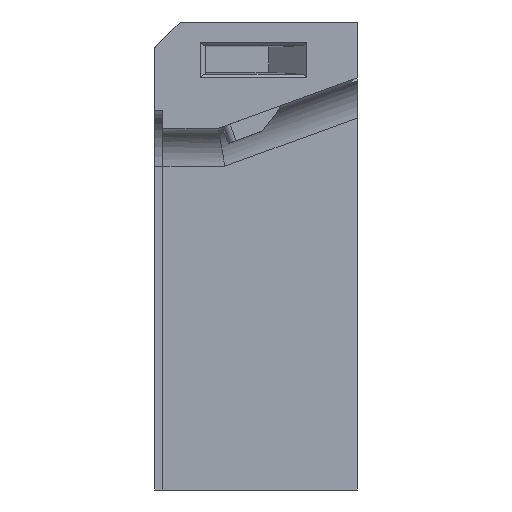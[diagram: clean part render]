
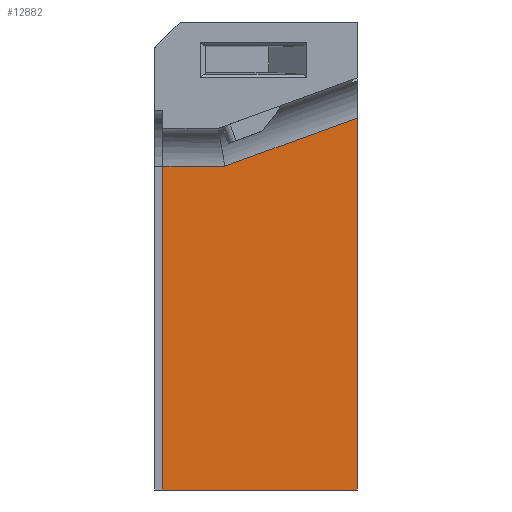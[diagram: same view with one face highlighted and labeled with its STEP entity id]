
A CAD part, left-side view. The second image highlights one B-rep face of the part: STEP entity #12882.
In plain terms, the highlighted planar face has unit normal (-1, 0, 0).
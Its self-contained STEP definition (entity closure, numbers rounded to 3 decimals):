
#70 = VERTEX_POINT ( 'NONE', #3200 ) ;
#114 = LINE ( 'NONE', #9999, #11064 ) ;
#286 = LINE ( 'NONE', #4239, #10628 ) ;
#695 = ORIENTED_EDGE ( 'NONE', *, *, #7512, .T. ) ;
#859 = DIRECTION ( 'NONE',  ( 0., 0., 1. ) ) ;
#1569 = VERTEX_POINT ( 'NONE', #6460 ) ;
#2038 = CARTESIAN_POINT ( 'NONE',  ( 163.336, 76.8, -144.027 ) ) ;
#2141 = ORIENTED_EDGE ( 'NONE', *, *, #9783, .T. ) ;
#3200 = CARTESIAN_POINT ( 'NONE',  ( 163.336, 76.8, -16.077 ) ) ;
#3684 = EDGE_LOOP ( 'NONE', ( #7714, #16554, #695, #2141, #5654 ) ) ;
#3722 = VECTOR ( 'NONE', #16094, 1000. ) ;
#3858 = VECTOR ( 'NONE', #4910, 1000. ) ;
#4147 = LINE ( 'NONE', #6898, #10643 ) ;
#4239 = CARTESIAN_POINT ( 'NONE',  ( 163.336, 76.8, 25.923 ) ) ;
#4392 = VERTEX_POINT ( 'NONE', #12173 ) ;
#4821 = DIRECTION ( 'NONE',  ( 0., 0., 1. ) ) ;
#4910 = DIRECTION ( 'NONE',  ( 0., -1., 0. ) ) ;
#5654 = ORIENTED_EDGE ( 'NONE', *, *, #8840, .T. ) ;
#6135 = DIRECTION ( 'NONE',  ( -1., 0., 0. ) ) ;
#6453 = CARTESIAN_POINT ( 'NONE',  ( 163.336, 80., -144.027 ) ) ;
#6460 = CARTESIAN_POINT ( 'NONE',  ( 163.336, 0., -144.027 ) ) ;
#6898 = CARTESIAN_POINT ( 'NONE',  ( 163.336, 80., -16.077 ) ) ;
#7160 = FACE_OUTER_BOUND ( 'NONE', #3684, .T. ) ;
#7512 = EDGE_CURVE ( 'NONE', #1569, #14450, #114, .T. ) ;
#7714 = ORIENTED_EDGE ( 'NONE', *, *, #9764, .T. ) ;
#8840 = EDGE_CURVE ( 'NONE', #4392, #70, #4147, .T. ) ;
#9507 = VERTEX_POINT ( 'NONE', #2038 ) ;
#9585 = DIRECTION ( 'NONE',  ( 0., 0., -1. ) ) ;
#9640 = CARTESIAN_POINT ( 'NONE',  ( 163.336, 0., 2.961 ) ) ;
#9764 = EDGE_CURVE ( 'NONE', #70, #9507, #286, .T. ) ;
#9783 = EDGE_CURVE ( 'NONE', #14450, #4392, #11234, .T. ) ;
#9921 = PLANE ( 'NONE',  #10501 ) ;
#9999 = CARTESIAN_POINT ( 'NONE',  ( 163.336, 0., 25.923 ) ) ;
#10501 = AXIS2_PLACEMENT_3D ( 'NONE', #16329, #6135, #859 ) ;
#10628 = VECTOR ( 'NONE', #9585, 1000. ) ;
#10643 = VECTOR ( 'NONE', #10802, 1000. ) ;
#10784 = LINE ( 'NONE', #6453, #3858 ) ;
#10802 = DIRECTION ( 'NONE',  ( 0., 1., 0. ) ) ;
#10972 = CARTESIAN_POINT ( 'NONE',  ( 163.336, 0., 2.961 ) ) ;
#11064 = VECTOR ( 'NONE', #4821, 1000. ) ;
#11234 = LINE ( 'NONE', #9640, #3722 ) ;
#12173 = CARTESIAN_POINT ( 'NONE',  ( 163.336, 52.305, -16.077 ) ) ;
#12882 = ADVANCED_FACE ( 'NONE', ( #7160 ), #9921, .T. ) ;
#13029 = EDGE_CURVE ( 'NONE', #9507, #1569, #10784, .T. ) ;
#14450 = VERTEX_POINT ( 'NONE', #10972 ) ;
#16094 = DIRECTION ( 'NONE',  ( 0., 0.94, -0.342 ) ) ;
#16329 = CARTESIAN_POINT ( 'NONE',  ( 163.336, 80., 25.923 ) ) ;
#16554 = ORIENTED_EDGE ( 'NONE', *, *, #13029, .T. ) ;
